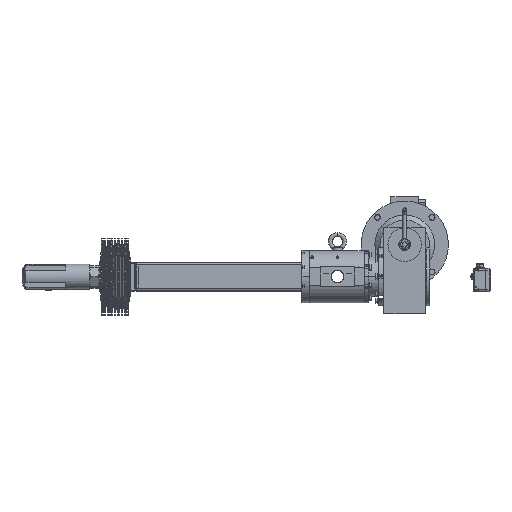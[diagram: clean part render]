
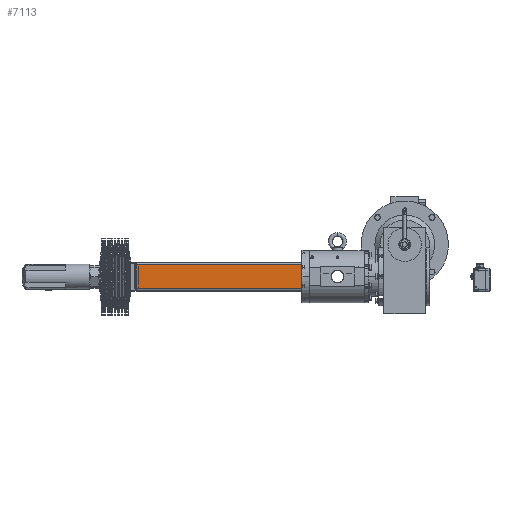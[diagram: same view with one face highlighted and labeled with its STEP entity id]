
A CAD part, top view. The second image highlights one B-rep face of the part: STEP entity #7113.
In plain terms, the highlighted planar face has unit normal (0, 0, 1).
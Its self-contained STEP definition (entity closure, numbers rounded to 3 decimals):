
#2248 = FACE_OUTER_BOUND ( 'NONE', #21912, .T. ) ;
#7113 = ADVANCED_FACE ( 'NONE', ( #2248 ), #58655, .F. ) ;
#12903 = CARTESIAN_POINT ( 'NONE',  ( 580., -40., 50. ) ) ;
#12926 = CARTESIAN_POINT ( 'NONE',  ( 580., 40., 50. ) ) ;
#12943 = CARTESIAN_POINT ( 'NONE',  ( 2., -40., 50. ) ) ;
#12973 = CARTESIAN_POINT ( 'NONE',  ( 2., 40., 50. ) ) ;
#19616 = ORIENTED_EDGE ( 'NONE', *, *, #25725, .T. ) ;
#19617 = ORIENTED_EDGE ( 'NONE', *, *, #25726, .T. ) ;
#19618 = ORIENTED_EDGE ( 'NONE', *, *, #25711, .F. ) ;
#19619 = ORIENTED_EDGE ( 'NONE', *, *, #25686, .F. ) ;
#21912 = EDGE_LOOP ( 'NONE', ( #19616, #19617, #19618, #19619 ) ) ;
#25686 = EDGE_CURVE ( 'NONE', #43702, #43688, #53496, .T. ) ;
#25711 = EDGE_CURVE ( 'NONE', #43688, #43712, #53567, .T. ) ;
#25725 = EDGE_CURVE ( 'NONE', #43702, #43730, #53614, .T. ) ;
#25726 = EDGE_CURVE ( 'NONE', #43730, #43712, #53609, .T. ) ;
#43688 = VERTEX_POINT ( 'NONE', #12903 ) ;
#43702 = VERTEX_POINT ( 'NONE', #12926 ) ;
#43712 = VERTEX_POINT ( 'NONE', #12943 ) ;
#43730 = VERTEX_POINT ( 'NONE', #12973 ) ;
#44937 = CARTESIAN_POINT ( 'NONE',  ( 580., 40., 50. ) ) ;
#44940 = DIRECTION ( 'NONE',  ( 0., -1., 0. ) ) ;
#45117 = CARTESIAN_POINT ( 'NONE',  ( 580., -40., 50. ) ) ;
#45121 = DIRECTION ( 'NONE',  ( -1., 0., 0. ) ) ;
#45180 = DIRECTION ( 'NONE',  ( -1., 0., 0. ) ) ;
#45188 = CARTESIAN_POINT ( 'NONE',  ( 580., 40., 50. ) ) ;
#45196 = CARTESIAN_POINT ( 'NONE',  ( 2., 40., 50. ) ) ;
#45206 = DIRECTION ( 'NONE',  ( 0., -1., 0. ) ) ;
#51798 = AXIS2_PLACEMENT_3D ( 'NONE', #58654, #58657, #58658 ) ;
#53496 = LINE ( 'NONE', #44937, #53501 ) ;
#53501 = VECTOR ( 'NONE', #44940, 1000. ) ;
#53567 = LINE ( 'NONE', #45117, #53572 ) ;
#53572 = VECTOR ( 'NONE', #45121, 1000. ) ;
#53609 = LINE ( 'NONE', #45196, #53621 ) ;
#53614 = LINE ( 'NONE', #45188, #53617 ) ;
#53617 = VECTOR ( 'NONE', #45180, 1000. ) ;
#53621 = VECTOR ( 'NONE', #45206, 1000. ) ;
#58654 = CARTESIAN_POINT ( 'NONE',  ( 580., 40., 50. ) ) ;
#58655 = PLANE ( 'NONE',  #51798 ) ;
#58657 = DIRECTION ( 'NONE',  ( 0., 0., -1. ) ) ;
#58658 = DIRECTION ( 'NONE',  ( -1., 0., 0. ) ) ;
